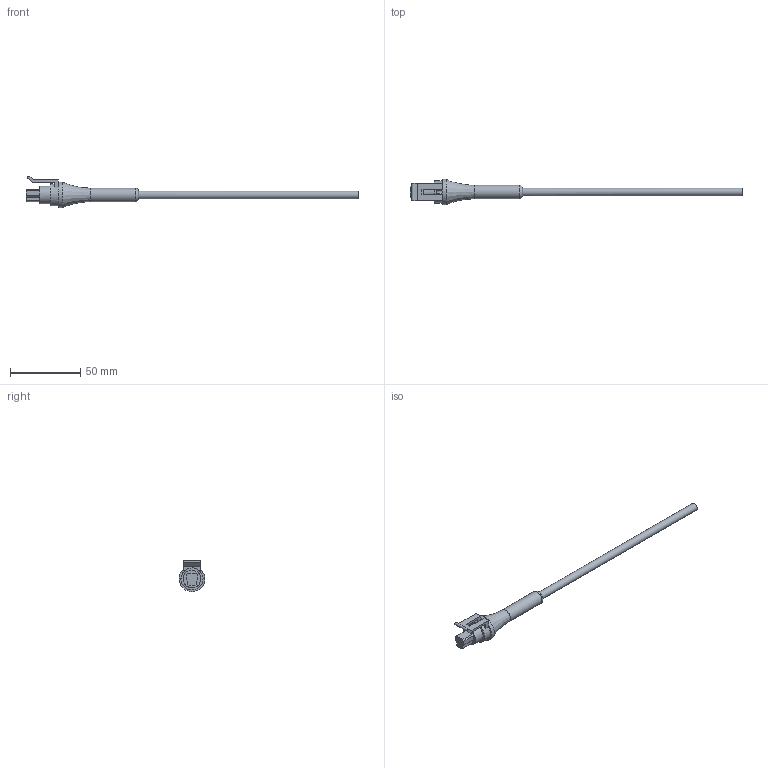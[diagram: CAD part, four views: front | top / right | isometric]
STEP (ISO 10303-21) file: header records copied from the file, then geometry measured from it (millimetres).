
FILE_DESCRIPTION(('CAx-IF Rec.Pracs.---Model Styling and Organization---1.5---2016-08-15','CAx-IF Rec.Pracs.---Geometric and Assembly Validation Properties---4.4---2016-08-17','CAx-IF Rec.Pracs.---User Defined Attributes---1.5---2016-08-15','CAx-IF Rec.Pracs.---External References---2.1---2005-01-19'),'2;1');
FILE_NAME('PACK-CON.stp','2019-10-21T11:04:44',('Unspecified'),('Unspecified'),'CAD Exchanger 3.7.0 (cadexchanger.com)','Unspecified','');
FILE_SCHEMA(('AUTOMOTIVE_DESIGN { 1 0 10303 214 1 1 1 1 }'));
Length unit declared in the file: millimetre
Products named in the file (1): 67
Bounding box: 236.17 x 18.16 x 22.32 mm (x, y, z)
Volume: 12444.3 mm3; surface area: 6832.6 mm2
Topology: 1 solids, 1 shells, 43 faces, 128 edges, 87 vertices
Faces by surface type: bspline 43
Entity records: 1830 total; most frequent: CARTESIAN_POINT 785, ORIENTED_EDGE 256, EDGE_CURVE 128, VERTEX_POINT 87, B_SPLINE_CURVE_WITH_KNOTS 79, FACE_BOUND 47, EDGE_LOOP 47, PRESENTATION_STYLE_ASSIGNMENT 44
